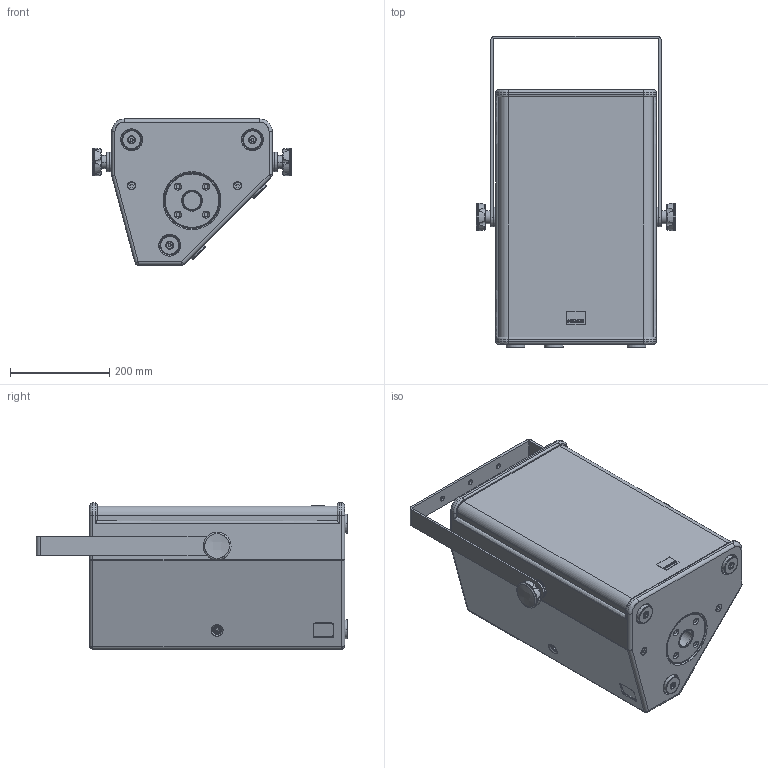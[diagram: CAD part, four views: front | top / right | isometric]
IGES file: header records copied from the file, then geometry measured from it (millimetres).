
Start section: SolidWorks IGES file using analytic representation for surfaces
Global section: file name: C:\Dokumente und Einstellungen\PC_Fabian\Desktop\TS-Serie\Seeburg_TSM10_Bracket_ver.IGS; native system: SolidWorks 2009; preprocessor: SolidWorks 2009; author: PC_Fabian; date: 121017.133401; units: millimetre
Bounding box: 402 x 628.5 x 295 mm (x, y, z)
Surface area: 1583956.2 mm2 (no closed solid volume)
Topology: 0 solids, 0 shells, 904 faces, 13252 edges, 13250 vertices
Faces by surface type: revolution 481, bspline 423
